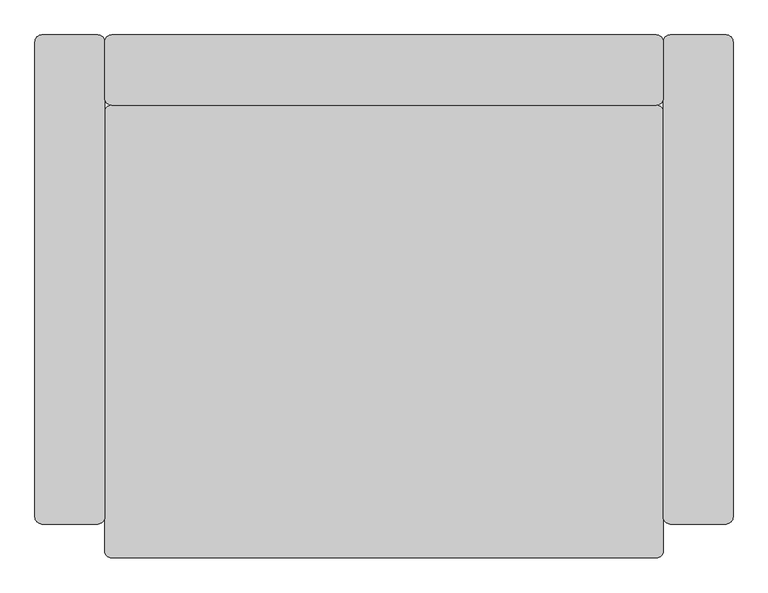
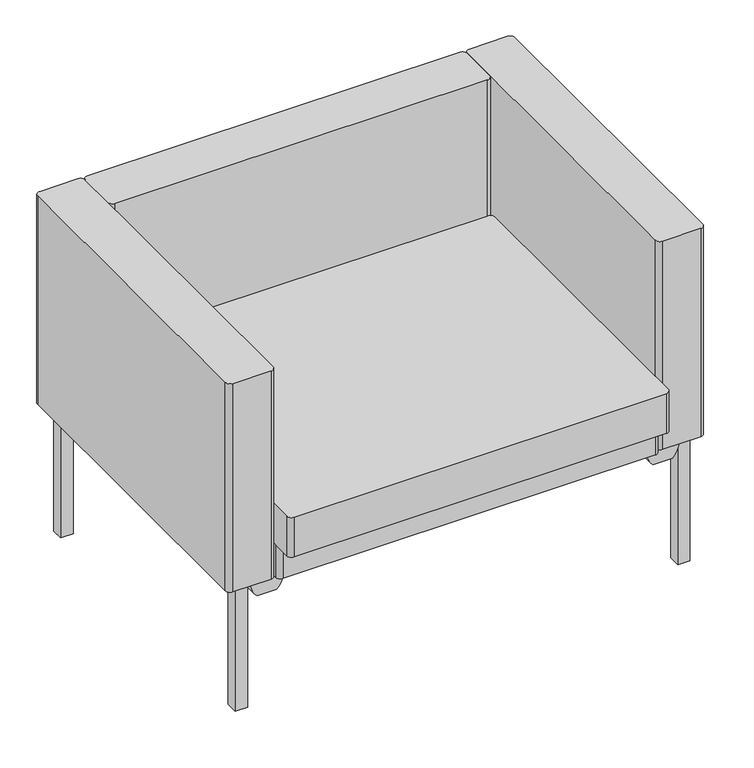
"""IFC4 building model written with IfcOpenShell, lengths in millimetres: furniture geometry, Sofá - COLAB - SF1000 : Sofá - COLAB - SF1000."""

from ifc_helpers import new_model, si_unit, point, frame, frame_2d, origin, place, context, project, spatial, polyline, circle_curve, trimmed, segment, composite_curve, outline, extrude, source, transform, mapped, element, save


def furniture_3d59b3a7(model_context):
    return source(origin(), model_context, "Body", "SweptSolid", [
        extrude(outline(composite_curve([segment(polyline([(245.4830285, 894.2220381), (245.4830285, 935.104014)]), True, "CONTINUOUS"), segment(trimmed(circle_curve(frame_2d((284.679009, 894.4209201)), 56.4928227), [point((245.4830285, 935.104014))], [point((279.4554332, 950.6717269))], False, "CARTESIAN"), True, "CONTINUOUS"), segment(polyline([(279.4554332, 950.6717269), (279.4554332, 878.6543252)]), True, "CONTINUOUS"), segment(trimmed(circle_curve(frame_2d((284.679009, 934.9051321)), 56.4928227), [point((279.4554332, 878.6543252))], [point((245.4830285, 894.2220381))], False, "CARTESIAN"), True, "CONTINUOUS")], self_intersect=False)), frame((0.0, 57.3761937, 0.0), z_axis=(0.0, 1.0, 0.0), x_axis=(0.0, 0.0, 1.0)), (0.0, 0.0, 1.0), 68.8985394),
        extrude(outline(composite_curve([segment(polyline([(245.4830285, 65.8589331), (245.4830285, 106.740909)]), True, "CONTINUOUS"), segment(trimmed(circle_curve(frame_2d((284.679009, 66.057815)), 56.4928227), [point((245.4830285, 106.740909))], [point((279.4554332, 122.3086219))], False, "CARTESIAN"), True, "CONTINUOUS"), segment(polyline([(279.4554332, 122.3086219), (279.4554332, 50.2912202)]), True, "CONTINUOUS"), segment(trimmed(circle_curve(frame_2d((284.679009, 106.5420271)), 56.4928227), [point((279.4554332, 50.2912202))], [point((245.4830285, 65.8589331))], False, "CARTESIAN"), True, "CONTINUOUS")], self_intersect=False)), frame((0.0, 57.3761937, 0.0), z_axis=(0.0, 1.0, 0.0), x_axis=(0.0, 0.0, 1.0)), (0.0, 0.0, 1.0), 68.8985394),
        extrude(outline(composite_curve([segment(trimmed(circle_curve(frame_2d((110.0127608, 637.9181793)), 10.0042536), [point((100.0085072, 637.9181793))], [point((110.0127608, 647.9224329))], False, "CARTESIAN"), True, "CONTINUOUS"), segment(polyline([(110.0127608, 647.9224329), (889.2308863, 647.9224329)]), True, "CONTINUOUS"), segment(trimmed(circle_curve(frame_2d((889.2308863, 637.9181793)), 10.0042536), [point((889.2308863, 647.9224329))], [point((899.2351399, 637.9181793))], False, "CARTESIAN"), True, "CONTINUOUS"), segment(polyline([(899.2351399, 637.9181793), (899.2351399, 50.0042536)]), True, "CONTINUOUS"), segment(trimmed(circle_curve(frame_2d((889.2308863, 50.0042536)), 10.0042536), [point((899.2351399, 50.0042536))], [point((889.2308863, 40.0))], False, "CARTESIAN"), True, "CONTINUOUS"), segment(polyline([(889.2308863, 40.0), (110.0127608, 40.0)]), True, "CONTINUOUS"), segment(trimmed(circle_curve(frame_2d((110.0127608, 50.0042536)), 10.0042536), [point((110.0127608, 40.0))], [point((100.0085072, 50.0042536))], False, "CARTESIAN"), True, "CONTINUOUS"), segment(polyline([(100.0085072, 50.0042536), (100.0085072, 637.9181793)]), True, "CONTINUOUS")], self_intersect=False)), frame((0.0, 0.0, 279.4554332), z_axis=(0.0, 0.0, 1.0), x_axis=(1.0, 0.0, 0.0)), (0.0, 0.0, 1.0), 71.7584741),
        extrude(outline(composite_curve([segment(trimmed(circle_curve(frame_2d((110.0127608, 637.9181793)), 10.0042536), [point((100.0085072, 637.9181793))], [point((110.0127608, 647.9224329))], False, "CARTESIAN"), True, "CONTINUOUS"), segment(polyline([(110.0127608, 647.9224329), (889.2308863, 647.9224329)]), True, "CONTINUOUS"), segment(trimmed(circle_curve(frame_2d((889.2308863, 637.9181793)), 10.0042536), [point((889.2308863, 647.9224329))], [point((899.2351399, 637.9181793))], False, "CARTESIAN"), True, "CONTINUOUS"), segment(polyline([(899.2351399, 637.9181793), (899.2351399, 10.0042536)]), True, "CONTINUOUS"), segment(trimmed(circle_curve(frame_2d((889.2308863, 10.0042536)), 10.0042536), [point((899.2351399, 10.0042536))], [point((889.2308863, 0.0))], False, "CARTESIAN"), True, "CONTINUOUS"), segment(polyline([(889.2308863, 0.0), (110.0127608, 0.0)]), True, "CONTINUOUS"), segment(trimmed(circle_curve(frame_2d((110.0127608, 10.0042536)), 10.0042536), [point((110.0127608, 0.0))], [point((100.0085072, 10.0042536))], False, "CARTESIAN"), True, "CONTINUOUS"), segment(polyline([(100.0085072, 10.0042536), (100.0085072, 637.9181793)]), True, "CONTINUOUS")], self_intersect=False)), frame((0.0, 0.0, 351.2139073), z_axis=(0.0, 0.0, 1.0), x_axis=(1.0, 0.0, 0.0)), (0.0, 0.0, 1.0), 87.7045649),
        extrude(outline(composite_curve([segment(polyline([(100.0085072, 657.9266865), (100.0085072, 738.3509966)]), True, "CONTINUOUS"), segment(trimmed(circle_curve(frame_2d((110.0127608, 738.3509966)), 10.0042536), [point((100.0085072, 738.3509966))], [point((110.0127608, 748.3552502))], False, "CARTESIAN"), True, "CONTINUOUS"), segment(polyline([(110.0127608, 748.3552502), (889.2308863, 748.3552502)]), True, "CONTINUOUS"), segment(trimmed(circle_curve(frame_2d((889.2308863, 738.3509966)), 10.0042536), [point((889.2308863, 748.3552502))], [point((899.2351399, 738.3509966))], False, "CARTESIAN"), True, "CONTINUOUS"), segment(polyline([(899.2351399, 738.3509966), (899.2351399, 657.9266865)]), True, "CONTINUOUS"), segment(trimmed(circle_curve(frame_2d((889.2308863, 657.9266865)), 10.0042536), [point((899.2351399, 657.9266865))], [point((889.2308863, 647.9224329))], False, "CARTESIAN"), True, "CONTINUOUS"), segment(polyline([(889.2308863, 647.9224329), (110.0127608, 647.9224329)]), True, "CONTINUOUS"), segment(trimmed(circle_curve(frame_2d((110.0127608, 657.9266865)), 10.0042536), [point((110.0127608, 647.9224329))], [point((100.0085072, 657.9266865))], False, "CARTESIAN"), True, "CONTINUOUS")], self_intersect=False)), frame((0.0, 0.0, 279.4554332), z_axis=(0.0, 0.0, 1.0), x_axis=(1.0, 0.0, 0.0)), (0.0, 0.0, 1.0), 460.5445779),
        extrude(outline(composite_curve([segment(trimmed(circle_curve(frame_2d((989.2393935, 58.3509966)), 10.0042536), [point((999.2436471, 58.3509966))], [point((989.2393935, 48.346743))], False, "CARTESIAN"), True, "CONTINUOUS"), segment(polyline([(989.2393935, 48.346743), (909.2393935, 48.346743)]), True, "CONTINUOUS"), segment(trimmed(circle_curve(frame_2d((909.2393935, 58.3509966)), 10.0042536), [point((909.2393935, 48.346743))], [point((899.2351399, 58.3509966))], False, "CARTESIAN"), True, "CONTINUOUS"), segment(polyline([(899.2351399, 58.3509966), (899.2351399, 738.3509966)]), True, "CONTINUOUS"), segment(trimmed(circle_curve(frame_2d((909.2393935, 738.3509966)), 10.0042536), [point((899.2351399, 738.3509966))], [point((909.2393935, 748.3552502))], False, "CARTESIAN"), True, "CONTINUOUS"), segment(polyline([(909.2393935, 748.3552502), (989.2393935, 748.3552502)]), True, "CONTINUOUS"), segment(trimmed(circle_curve(frame_2d((989.2393935, 738.3509966)), 10.0042536), [point((989.2393935, 748.3552502))], [point((999.2436471, 738.3509966))], False, "CARTESIAN"), True, "CONTINUOUS"), segment(polyline([(999.2436471, 738.3509966), (999.2436471, 58.3509966)]), True, "CONTINUOUS")], self_intersect=False)), frame((0.0, 0.0, 279.4554332), z_axis=(0.0, 0.0, 1.0), x_axis=(1.0, 0.0, 0.0)), (0.0, 0.0, 1.0), 460.5445779),
        extrude(outline(composite_curve([segment(polyline([(0.0, 58.3509966), (0.0, 738.3509966)]), True, "CONTINUOUS"), segment(trimmed(circle_curve(frame_2d((10.0042536, 738.3509966)), 10.0042536), [point((0.0, 738.3509966))], [point((10.0042536, 748.3552502))], False, "CARTESIAN"), True, "CONTINUOUS"), segment(polyline([(10.0042536, 748.3552502), (90.0042536, 748.3552502)]), True, "CONTINUOUS"), segment(trimmed(circle_curve(frame_2d((90.0042536, 738.3509966)), 10.0042536), [point((90.0042536, 748.3552502))], [point((100.0085072, 738.3509966))], False, "CARTESIAN"), True, "CONTINUOUS"), segment(polyline([(100.0085072, 738.3509966), (100.0085072, 58.3509966)]), True, "CONTINUOUS"), segment(trimmed(circle_curve(frame_2d((90.0042536, 58.3509966)), 10.0042536), [point((100.0085072, 58.3509966))], [point((90.0042536, 48.346743))], False, "CARTESIAN"), True, "CONTINUOUS"), segment(polyline([(90.0042536, 48.346743), (10.0042536, 48.346743)]), True, "CONTINUOUS"), segment(trimmed(circle_curve(frame_2d((10.0042536, 58.3509966)), 10.0042536), [point((10.0042536, 48.346743))], [point((0.0, 58.3509966))], False, "CARTESIAN"), True, "CONTINUOUS")], self_intersect=False)), frame((0.0, 0.0, 279.4554332), z_axis=(0.0, 0.0, 1.0), x_axis=(1.0, 0.0, 0.0)), (0.0, 0.0, 1.0), 460.5445779),
        extrude(outline(polyline([(950.6717269, 205.7247839), (950.6717269, 180.7247839), (50.2912202, 180.7247839), (50.2912202, 205.7247839), (950.6717269, 205.7247839)])), frame((0.0, 0.0, 254.4554332), z_axis=(0.0, 0.0, 1.0), x_axis=(1.0, 0.0, 0.0)), (0.0, 0.0, 1.0), 25.0),
        extrude(outline(polyline([(950.6717269, 605.7247839), (950.6717269, 580.7247839), (50.2912202, 580.7247839), (50.2912202, 605.7247839), (950.6717269, 605.7247839)])), frame((0.0, 0.0, 254.4554332), z_axis=(0.0, 0.0, 1.0), x_axis=(1.0, 0.0, 0.0)), (0.0, 0.0, 1.0), 25.0),
        extrude(outline(polyline([(722.267688, 0.0), (697.267688, 0.0), (697.267688, 254.4554332), (90.2661464, 254.4554332), (90.2661464, 0.0), (65.2661464, 0.0), (65.2661464, 279.4554332), (722.267688, 279.4554332), (722.267688, 0.0)])), frame((950.6717269, 0.0, 0.0), z_axis=(1.0, 0.0, 0.0), x_axis=(0.0, 1.0, 0.0)), (0.0, 0.0, 1.0), 25.7301988),
        extrude(outline(polyline([(722.267688, 0.0), (697.267688, 0.0), (697.267688, 254.4554332), (90.2661464, 254.4554332), (90.2661464, 0.0), (65.2661464, 0.0), (65.2661464, 279.4554332), (722.267688, 279.4554332), (722.267688, 0.0)])), frame((24.5609209, 0.0, 0.0), z_axis=(1.0, 0.0, 0.0), x_axis=(0.0, 1.0, 0.0)), (0.0, 0.0, 1.0), 25.7302993),
    ])


if __name__ == "__main__":
    model = new_model("IFC4")
    model_context = context("Model", 3, world=origin())
    ifc_project = project(units=[si_unit("LENGTHUNIT", "METRE", prefix="MILLI")], contexts=[model_context])
    site = spatial("IfcSite", under=ifc_project)
    building = spatial("IfcBuilding", under=site)
    placement = place(None, origin())
    furniture_shape = furniture_3d59b3a7(model_context)
    element("IfcFurniture", 1, ObjectType="Sofá - COLAB - SF1000 : Sofá - COLAB - SF1000", at=placement, inside=building, context=model_context, shape_type="MappedRepresentation", body=[
        mapped(furniture_shape, transform((0.0, 0.0, 0.0), x_axis=(1.0, 0.0, 0.0), y_axis=(0.0, 1.0, 0.0), z_axis=(0.0, 0.0, 1.0))),
    ])
    save(model, "model.ifc")
